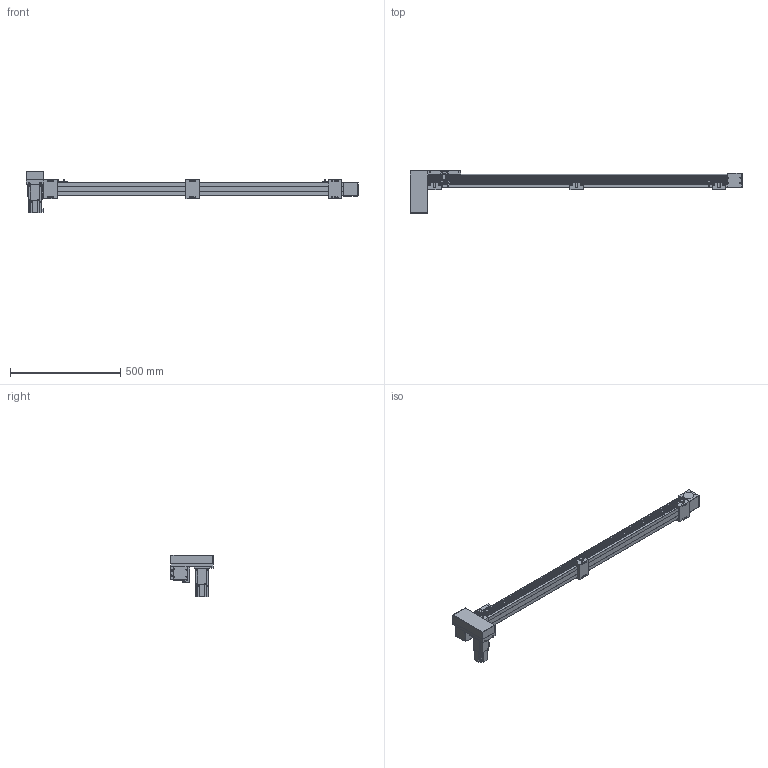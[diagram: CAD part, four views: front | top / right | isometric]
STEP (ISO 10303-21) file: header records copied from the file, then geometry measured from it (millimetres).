
FILE_DESCRIPTION(/* description */ ('STEP AP214'),/* implementation_level */ '2;1');
FILE_NAME(/* name */ 'SK60-P13-S1200-RD-T40-C1-N(0)',/* time_stamp */ '2023-04-06T04:55:50+02:00',/* author */ ('License CC BY-ND 4.0'),/* organization */ ('CADENAS'),/* preprocessor_version */ 'ST-DEVELOPER v19.3',/* originating_system */ 'PARTsolutions',/* authorisation */ ' ');
FILE_SCHEMA (('AUTOMOTIVE_DESIGN {1 0 10303 214 3 1 1}'));
Length unit declared in the file: millimetre
Products named in the file (10): SK60-P13-S1200-RD-T40-C1-N(0); PSC140-sensor; SK60-S450_seat; SK60-S450-BL-C1_slider; SK60_body3; SK60_body6; SK60-BL_body2; T40-p1; SK60-RD_fb; SK60-S1200-RD-C1_body
Assembly tree (17 placements, depth 2):
  SK60-P13-S1200-RD-T40-C1-N(0)
    PSC140-sensor  x3
    SK60-S450_seat  x3
    SK60-S450-BL-C1_slider
    SK60_body3  x3
    SK60_body6  x2
    SK60-BL_body2  x2
    T40-p1
    SK60-RD_fb
    SK60-S1200-RD-C1_body
Bounding box: 1505.5 x 199 x 189.7 mm (x, y, z)
Volume: 6317707 mm3; surface area: 783834.3 mm2
Topology: 17 solids, 17 shells, 854 faces, 2146 edges, 1413 vertices
Faces by surface type: plane 548, cylinder 278, cone 26, torus 2
Full cylindrical faces by diameter (mm): 2.8 x3, 3.3 x4, 4 x2, 4.5 x30, 4.6 x3, 4.917 x20, 5 x6, 5.478 x4, 5.5 x23, 6.5 x6, 7 x2, 8 x4, 8.5 x4, 9.988 x4, 10 x12, 14 x1, 47 x3, 50 x2
Entity records: 18663 total; most frequent: DIRECTION 3186, CARTESIAN_POINT 3151, ORIENTED_EDGE 2940, EDGE_CURVE 1470, AXIS2_PLACEMENT_3D 1069, LINE 1048, VECTOR 1048, VERTEX_POINT 1034
